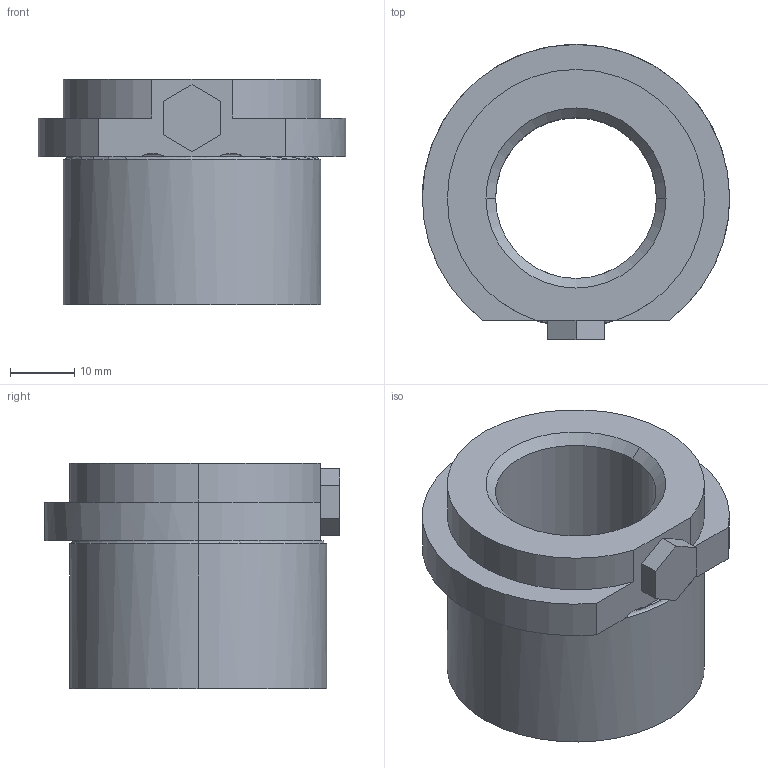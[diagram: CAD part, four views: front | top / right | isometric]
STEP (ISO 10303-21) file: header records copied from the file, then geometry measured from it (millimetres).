
FILE_DESCRIPTION(('CATIA V5 STEP Exchange'),'2;1');
FILE_NAME('C:\Users\Utente\Desktop\IO LAVORO\3D X SITO CF\X SITO\740\740-25.stp','2021-01-18T19:38:13+00:00',('none'),('none'),'CATIA Version 5 Release 20 GA (IN-10)','CATIA V5 STEP AP203','none');
FILE_SCHEMA(('CONFIG_CONTROL_DESIGN'));
Length unit declared in the file: millimetre
Products named in the file (1): 740-25
Assembly tree (1 placements, depth 2):
  740-25
    #58
Bounding box: 47.8 x 45.9 x 35 mm (x, y, z)
Volume: 29146.2 mm3; surface area: 9927.2 mm2
Topology: 1 solids, 1 shells, 35 faces, 87 edges, 56 vertices
Faces by surface type: plane 14, cylinder 12, torus 5, cone 4
Entity records: 1315 total; most frequent: CARTESIAN_POINT 458, ORIENTED_EDGE 174, DIRECTION 139, EDGE_CURVE 87, AXIS2_PLACEMENT_3D 63, VERTEX_POINT 56, VECTOR 42, LINE 42
